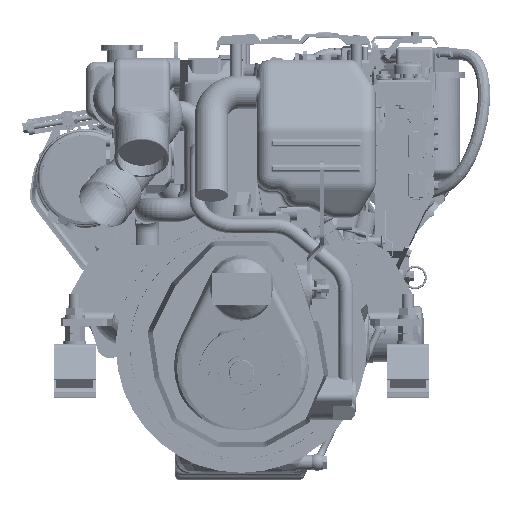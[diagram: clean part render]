
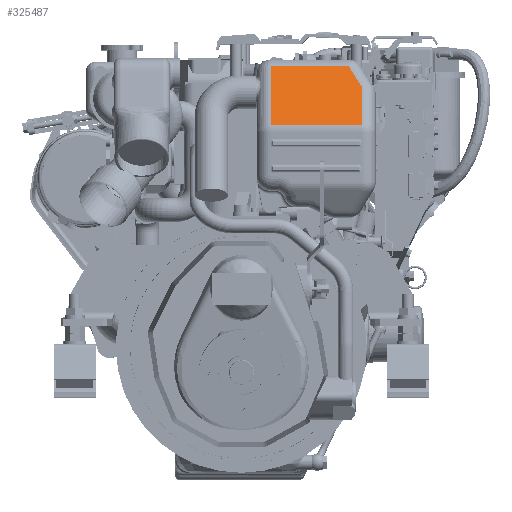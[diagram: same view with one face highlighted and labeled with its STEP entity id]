
A CAD part, top view. The second image highlights one B-rep face of the part: STEP entity #325487.
In plain terms, the highlighted planar face has unit normal (0, 0.535, 0.845).
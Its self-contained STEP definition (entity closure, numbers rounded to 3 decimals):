
#317735=DIRECTION('',(0.,-0.845,0.535));
#317736=VECTOR('',#317735,98.047);
#317737=CARTESIAN_POINT('',(41.5,396.709,
224.64));
#317738=LINE('',#317737,#317736);
#318068=DIRECTION('',(-1.,0.,0.));
#318069=VECTOR('',#318068,109.942);
#318070=CARTESIAN_POINT('',(151.442,396.709,
224.64));
#318071=LINE('',#318070,#318069);
#318102=DIRECTION('',(0.,0.845,
-0.535));
#318103=VECTOR('',#318102,63.995);
#318104=CARTESIAN_POINT('',(169.5,313.903,277.141));
#318105=LINE('',#318104,#318103);
#318125=DIRECTION('',(1.,0.,0.));
#318126=VECTOR('',#318125,128.);
#318127=CARTESIAN_POINT('',(41.5,313.903,277.141));
#318128=LINE('',#318127,#318126);
#319817=DIRECTION('',(0.469,-0.746,0.473));
#319818=VECTOR('',#319817,38.543);
#319819=CARTESIAN_POINT('',(151.442,396.709,
224.64));
#319820=LINE('',#319819,#319818);
#320495=CARTESIAN_POINT('',(41.5,396.709,224.64));
#320496=VERTEX_POINT('',#320495);
#320497=CARTESIAN_POINT('',(41.5,313.903,277.141));
#320498=VERTEX_POINT('',#320497);
#320540=CARTESIAN_POINT('',(151.442,396.709,
224.64));
#320541=VERTEX_POINT('',#320540);
#320542=CARTESIAN_POINT('',(169.5,367.951,242.874));
#320543=VERTEX_POINT('',#320542);
#320544=CARTESIAN_POINT('',(169.5,313.903,277.141));
#320545=VERTEX_POINT('',#320544);
#325475=CARTESIAN_POINT('',(206.3,309.,280.25));
#325476=DIRECTION('',(0.,-0.535,-0.845));
#325477=DIRECTION('',(0.,0.845,-0.535));
#325478=AXIS2_PLACEMENT_3D('',#325475,#325476,#325477);
#325479=PLANE('',#325478);
#325480=ORIENTED_EDGE('',*,*,#322554,.T.);
#325481=ORIENTED_EDGE('',*,*,#322580,.F.);
#325482=ORIENTED_EDGE('',*,*,#322609,.F.);
#325483=ORIENTED_EDGE('',*,*,#321955,.F.);
#325484=ORIENTED_EDGE('',*,*,#322528,.F.);
#325485=EDGE_LOOP('',(#325480,#325481,#325482,#325483,#325484));
#325486=FACE_OUTER_BOUND('',#325485,.F.);
#325487=ADVANCED_FACE('',(#325486),#325479,.F.);
#321955=EDGE_CURVE('',#320496,#320498,#317738,.T.);
#322528=EDGE_CURVE('',#320541,#320496,#318071,.T.);
#322554=EDGE_CURVE('',#320541,#320543,#319820,.T.);
#322580=EDGE_CURVE('',#320545,#320543,#318105,.T.);
#322609=EDGE_CURVE('',#320498,#320545,#318128,.T.);
